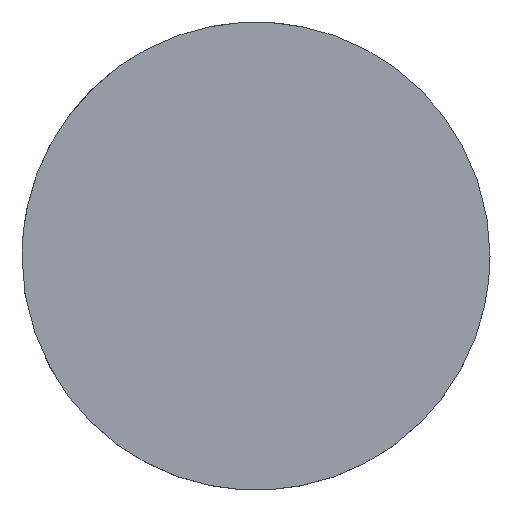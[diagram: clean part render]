
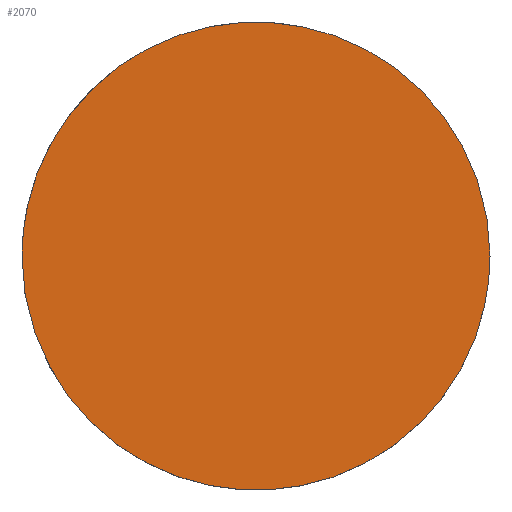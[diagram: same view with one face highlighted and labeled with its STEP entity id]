
A CAD part, top view. The second image highlights one B-rep face of the part: STEP entity #2070.
In plain terms, the highlighted planar face has unit normal (0, 0, 1).
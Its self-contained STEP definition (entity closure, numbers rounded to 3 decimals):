
#190 = CARTESIAN_POINT ('', (-9., 0., -11.507));
#200 = VERTEX_POINT ('', #190);
#260 = CARTESIAN_POINT ('', (9., 0., -11.507));
#270 = VERTEX_POINT ('', #260);
#280 = CARTESIAN_POINT ('', (9., 0., -11.507));
#290 = CARTESIAN_POINT ('', (9., 9., -11.507));
#300 = CARTESIAN_POINT ('', (0., 9., -11.507));
#310 = CARTESIAN_POINT ('', (-9., 9., -11.507));
#320 = CARTESIAN_POINT ('', (-9., 0., -11.507));
#330 = (
   BOUNDED_CURVE ()
   B_SPLINE_CURVE (2, (#280, #290, #300, #310, #320), .UNSPECIFIED., .F., .U.)
   B_SPLINE_CURVE_WITH_KNOTS ((3, 2, 3), (0., 1.571, 3.142), .UNSPECIFIED.)
   CURVE ()
   GEOMETRIC_REPRESENTATION_ITEM ()
   RATIONAL_B_SPLINE_CURVE ((1., 0.707, 1., 0.707, 1.))
   REPRESENTATION_ITEM ('')
);
#340 = EDGE_CURVE ('', #270, #200, #330, .T.);
#580 = CARTESIAN_POINT ('', (-9., 0., -11.507));
#590 = CARTESIAN_POINT ('', (-9., -9., -11.507));
#600 = CARTESIAN_POINT ('', (0., -9., -11.507));
#610 = CARTESIAN_POINT ('', (9., -9., -11.507));
#620 = CARTESIAN_POINT ('', (9., 0., -11.507));
#630 = (
   BOUNDED_CURVE ()
   B_SPLINE_CURVE (2, (#580, #590, #600, #610, #620), .UNSPECIFIED., .F., .U.)
   B_SPLINE_CURVE_WITH_KNOTS ((3, 2, 3), (3.142, 4.712, 6.283), .UNSPECIFIED.)
   CURVE ()
   GEOMETRIC_REPRESENTATION_ITEM ()
   RATIONAL_B_SPLINE_CURVE ((1., 0.707, 1., 0.707, 1.))
   REPRESENTATION_ITEM ('')
);
#640 = EDGE_CURVE ('', #200, #270, #630, .T.);
#1980 = ORIENTED_EDGE ('', *, *, #340, .T.);
#1990 = ORIENTED_EDGE ('', *, *, #640, .T.);
#2000 = EDGE_LOOP ('', (#1980, #1990));
#2010 = FACE_OUTER_BOUND ('', #2000, .T.);
#2020 = CARTESIAN_POINT ('', (0., 18.564, -11.507));
#2030 = DIRECTION ('', (0., 0., 1.));
#2040 = DIRECTION ('', (-0.707, -0.707, 0.));
#2050 = AXIS2_PLACEMENT_3D ('', #2020, #2030, #2040);
#2060 = PLANE ('', #2050);
#2070 = ADVANCED_FACE ('', (#2010), #2060, .T.);
